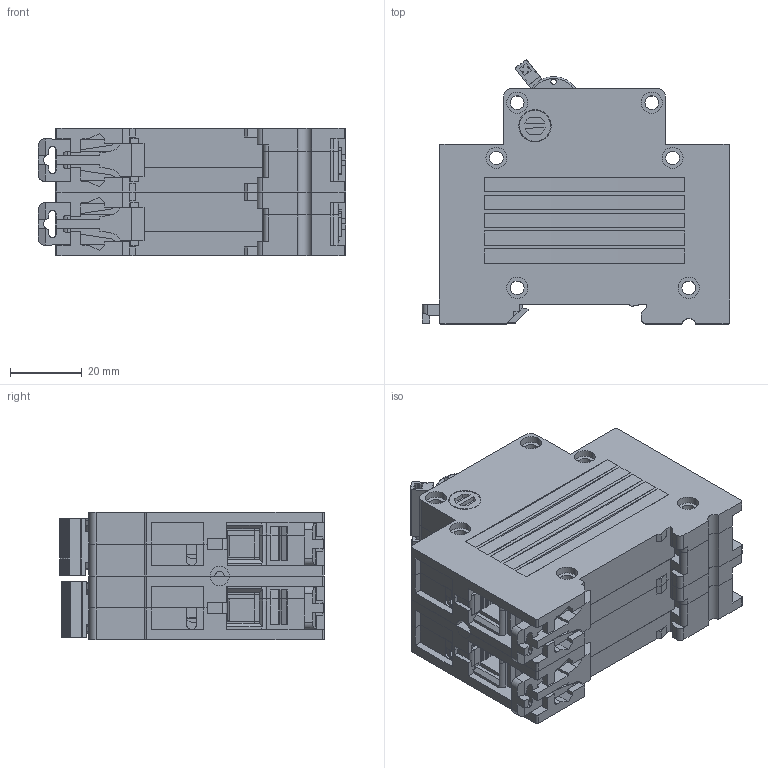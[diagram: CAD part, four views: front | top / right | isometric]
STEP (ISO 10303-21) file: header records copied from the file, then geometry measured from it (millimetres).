
FILE_DESCRIPTION (( 'STEP AP203' ), '1' );
FILE_NAME ('BKN2P(覃誹蹟隊諳党蜊).STEP', '2016-04-06T00:43:43', ( 'User' ), ( 'Company' ), 'SwSTEP 2.0', 'SolidWorks 2013', '' );
FILE_SCHEMA (( 'CONFIG_CONTROL_DESIGN' ));
Length unit declared in the file: inch
Products named in the file (13): BKN多极基座（调节螺钉口修改）; BKN基座（调节螺钉口修改）; BKN裔ㄗ覃誹蹟隊諳党蜊ㄘ; 假蚾縐148.1300; 諉盄蹟隊901.1300; BKN1P(覃誹蹟隊諳党蜊); 諉盄え516.1300; BKN多极盖（调节螺钉口修改）; 諉盄釱574.1300; BKN2P(覃誹蹟隊諳党蜊); 噙揖裝550.1301; 忒梟253.1300; 封口塞
Assembly tree (25 placements, depth 3):
  BKN2P(覃誹蹟隊諳党蜊)
    BKN裔ㄗ覃誹蹟隊諳党蜊ㄘ
    諉盄蹟隊901.1300  x2
    諉盄え516.1300
    諉盄釱574.1300  x2
    噙揖裝550.1301
    忒梟253.1300
    封口塞
    BKN多极基座（调节螺钉口修改）
    BKN1P(覃誹蹟隊諳党蜊)
      BKN基座（调节螺钉口修改）
      諉盄蹟隊901.1300  x2
      諉盄え516.1300
      諉盄釱574.1300  x2
      噙揖裝550.1301
      忒梟253.1300
      封口塞  x2
      BKN裔ㄗ覃誹蹟隊諳党蜊ㄘ
      假蚾縐148.1300
    BKN多极盖（调节螺钉口修改）
    假蚾縐148.1300
Bounding box: 85.74 x 73.58 x 35.6 mm (x, y, z)
Volume: 49773.6 mm3; surface area: 105263.6 mm2
Topology: 25 solids, 38 shells, 5224 faces, 14323 edges, 9331 vertices
Faces by surface type: plane 3492, cylinder 1557, torus 101, cone 66, sphere 8
Entity records: 116376 total; most frequent: CARTESIAN_POINT 20739, ORIENTED_EDGE 19854, DIRECTION 19523, EDGE_CURVE 9939, VECTOR 7255, LINE 7255, VERTEX_POINT 6516, AXIS2_PLACEMENT_3D 6134
